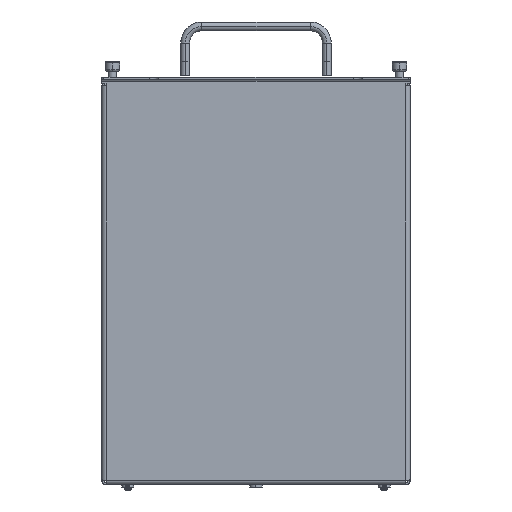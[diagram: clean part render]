
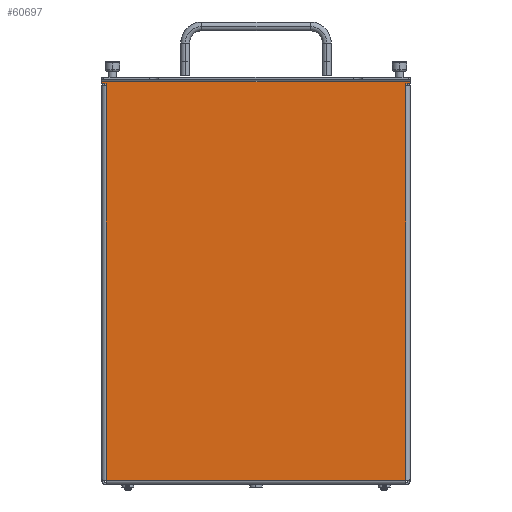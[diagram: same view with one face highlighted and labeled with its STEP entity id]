
A CAD part, left-side view. The second image highlights one B-rep face of the part: STEP entity #60697.
In plain terms, the highlighted planar face has unit normal (-1, 0, 0).
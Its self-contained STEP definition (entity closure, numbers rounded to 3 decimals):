
#7645=DIRECTION('',(0.,0.,1.));
#7646=VECTOR('',#7645,282.956);
#7647=CARTESIAN_POINT('',(-224.536,107.569,3.048));
#7648=LINE('',#7647,#7646);
#7666=DIRECTION('',(0.,0.,1.));
#7667=VECTOR('',#7666,1.524);
#7668=CARTESIAN_POINT('',(-224.536,107.569,286.004));
#7669=LINE('',#7668,#7667);
#7670=DIRECTION('',(0.,-1.,0.));
#7671=VECTOR('',#7670,3.048);
#7672=CARTESIAN_POINT('',(-224.536,110.617,287.528));
#7673=LINE('',#7672,#7671);
#7674=DIRECTION('',(0.,1.,0.));
#7675=VECTOR('',#7674,3.048);
#7676=CARTESIAN_POINT('',(-224.536,-110.617,287.528));
#7677=LINE('',#7676,#7675);
#7678=DIRECTION('',(0.,0.,1.));
#7679=VECTOR('',#7678,1.524);
#7680=CARTESIAN_POINT('',(-224.536,-107.569,286.004));
#7681=LINE('',#7680,#7679);
#7682=DIRECTION('',(0.,-1.,0.));
#7683=VECTOR('',#7682,215.138);
#7684=CARTESIAN_POINT('',(-224.536,107.569,3.048));
#7685=LINE('',#7684,#7683);
#10447=DIRECTION('',(0.,0.,-1.));
#10448=VECTOR('',#10447,282.956);
#10449=CARTESIAN_POINT('',(-224.536,-107.569,286.004));
#10450=LINE('',#10449,#10448);
#10493=DIRECTION('',(0.,0.,1.));
#10494=VECTOR('',#10493,1.524);
#10495=CARTESIAN_POINT('',(-224.536,-110.617,287.528));
#10496=LINE('',#10495,#10494);
#10655=DIRECTION('',(0.,1.,0.));
#10656=VECTOR('',#10655,221.234);
#10657=CARTESIAN_POINT('',(-224.536,-110.617,289.052));
#10658=LINE('',#10657,#10656);
#10761=DIRECTION('',(0.,0.,1.));
#10762=VECTOR('',#10761,1.524);
#10763=CARTESIAN_POINT('',(-224.536,110.617,287.528));
#10764=LINE('',#10763,#10762);
#37372=CARTESIAN_POINT('',(-224.536,110.617,289.052));
#37374=VERTEX_POINT('',#37372);
#37376=CARTESIAN_POINT('',(-224.536,-110.617,289.052));
#37378=VERTEX_POINT('',#37376);
#37444=CARTESIAN_POINT('',(-224.536,107.569,3.048));
#37445=VERTEX_POINT('',#37444);
#37672=CARTESIAN_POINT('',(-224.536,-107.569,3.048));
#37674=VERTEX_POINT('',#37672);
#37894=CARTESIAN_POINT('',(-224.536,107.569,286.004));
#37895=CARTESIAN_POINT('',(-224.536,107.569,287.528));
#37896=VERTEX_POINT('',#37894);
#37897=VERTEX_POINT('',#37895);
#37898=CARTESIAN_POINT('',(-224.536,110.617,287.528));
#37899=VERTEX_POINT('',#37898);
#37920=CARTESIAN_POINT('',(-224.536,-107.569,286.004));
#37921=CARTESIAN_POINT('',(-224.536,-107.569,287.528));
#37922=VERTEX_POINT('',#37920);
#37923=VERTEX_POINT('',#37921);
#37924=CARTESIAN_POINT('',(-224.536,-110.617,287.528));
#37925=VERTEX_POINT('',#37924);
#60672=CARTESIAN_POINT('',(-224.536,110.617,3.048));
#60673=DIRECTION('',(1.,0.,0.));
#60674=DIRECTION('',(0.,0.,1.));
#60675=AXIS2_PLACEMENT_3D('',#60672,#60673,#60674);
#60676=PLANE('',#60675);
#60677=ORIENTED_EDGE('',*,*,#60594,.T.);
#60679=ORIENTED_EDGE('',*,*,#60678,.T.);
#60681=ORIENTED_EDGE('',*,*,#60680,.F.);
#60683=ORIENTED_EDGE('',*,*,#60682,.T.);
#60685=ORIENTED_EDGE('',*,*,#60684,.F.);
#60687=ORIENTED_EDGE('',*,*,#60686,.F.);
#60689=ORIENTED_EDGE('',*,*,#60688,.T.);
#60691=ORIENTED_EDGE('',*,*,#60690,.F.);
#60693=ORIENTED_EDGE('',*,*,#60692,.T.);
#60694=ORIENTED_EDGE('',*,*,#60656,.F.);
#60695=EDGE_LOOP('',(#60677,#60679,#60681,#60683,#60685,#60687,#60689,#60691,
#60693,#60694));
#60696=FACE_OUTER_BOUND('',#60695,.F.);
#60594=EDGE_CURVE('',#37445,#37896,#7648,.T.);
#60656=EDGE_CURVE('',#37445,#37674,#7685,.T.);
#60678=EDGE_CURVE('',#37896,#37897,#7669,.T.);
#60680=EDGE_CURVE('',#37899,#37897,#7673,.T.);
#60682=EDGE_CURVE('',#37899,#37374,#10764,.T.);
#60684=EDGE_CURVE('',#37378,#37374,#10658,.T.);
#60686=EDGE_CURVE('',#37925,#37378,#10496,.T.);
#60688=EDGE_CURVE('',#37925,#37923,#7677,.T.);
#60690=EDGE_CURVE('',#37922,#37923,#7681,.T.);
#60692=EDGE_CURVE('',#37922,#37674,#10450,.T.);
#60697=ADVANCED_FACE('',(#60696),#60676,.F.);
